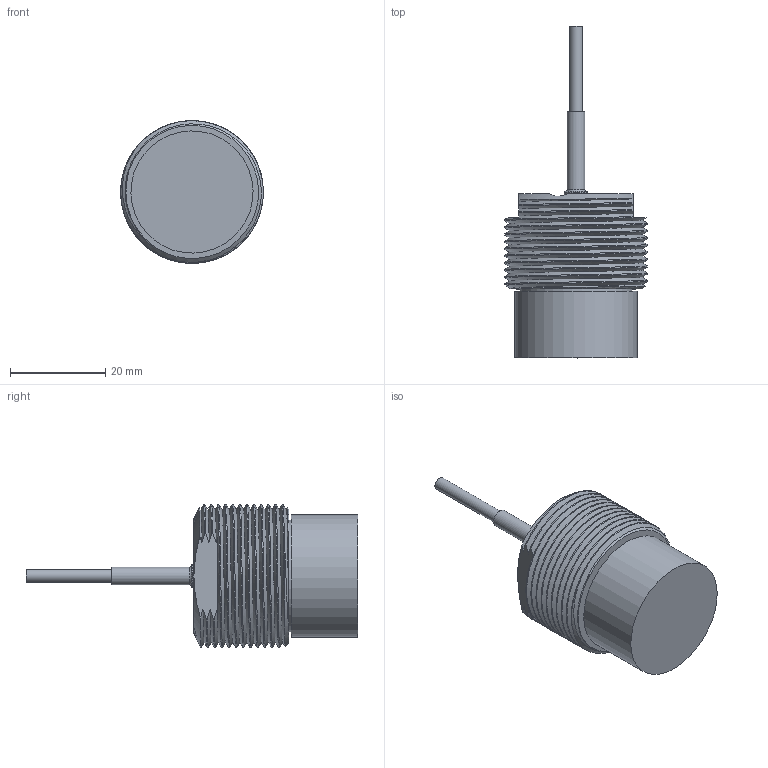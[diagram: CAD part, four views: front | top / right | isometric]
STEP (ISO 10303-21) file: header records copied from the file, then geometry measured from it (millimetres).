
FILE_DESCRIPTION( ( 'STEP AP214' ), '1' );
FILE_NAME( 'N:/Engineering/CAD_Solid/Wirbelstrom/Wirbelstromsensoren/T10/T10_G_KA.stp', '2011-08-04T07:57:15', ( ' ' ), ( ' ' ), 'XStep 1.0', ' ', ' ' );
FILE_SCHEMA( ( 'CONFIG_CONTROL_DESIGN) ( )' ) );
Length unit declared in the file: metre
Products named in the file (5): 1; 2; 3; 4; 5
Bounding box: 30 x 69.8 x 30 mm (x, y, z)
Surface area: 8159 mm2 (no closed solid volume)
Topology: 0 solids, 60 shells, 60 faces, 292 edges, 278 vertices
Faces by surface type: plane 21, cylinder 15, bspline 12, cone 10, torus 2
Full cylindrical faces by diameter (mm): 2 x2, 2.7 x1, 3.7 x1, 5 x1, 23.5 x1, 25.7 x1
Entity records: 27364 total; most frequent: CARTESIAN_POINT 25424, DIRECTION 310, ORIENTED_EDGE 272, EDGE_CURVE 272, VERTEX_POINT 272, AXIS2_PLACEMENT_3D 123, B_SPLINE_CURVE_WITH_KNOTS 101, FACE_BOUND 78
